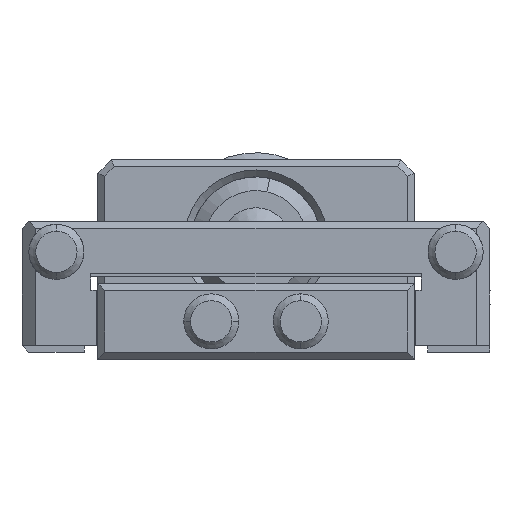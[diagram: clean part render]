
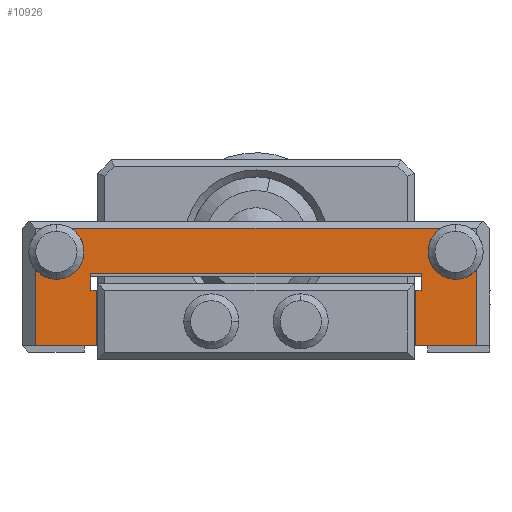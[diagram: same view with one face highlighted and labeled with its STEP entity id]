
A CAD part, left-side view. The second image highlights one B-rep face of the part: STEP entity #10926.
In plain terms, the highlighted planar face has unit normal (-1, 0, 0).
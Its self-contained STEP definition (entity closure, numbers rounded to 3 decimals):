
#42 = CARTESIAN_POINT ( 'NONE',  ( -17., -16., 0.5 ) ) ;
#599 = CARTESIAN_POINT ( 'NONE',  ( -17., 14.5, 7.3 ) ) ;
#815 = CARTESIAN_POINT ( 'NONE',  ( -17., -11.6, 0. ) ) ;
#1012 = DIRECTION ( 'NONE',  ( 0., 0., 1. ) ) ;
#1035 = VERTEX_POINT ( 'NONE', #8457 ) ;
#1680 = VERTEX_POINT ( 'NONE', #16057 ) ;
#2104 = ORIENTED_EDGE ( 'NONE', *, *, #27889, .F. ) ;
#2494 = CARTESIAN_POINT ( 'NONE',  ( -17., -12., 4.5 ) ) ;
#2497 = EDGE_CURVE ( 'NONE', #14757, #15237, #14027, .T. ) ;
#2907 = CARTESIAN_POINT ( 'NONE',  ( -17., 12., 0. ) ) ;
#3111 = DIRECTION ( 'NONE',  ( 0., 0., -1. ) ) ;
#3204 = CARTESIAN_POINT ( 'NONE',  ( -17., -11.6, 4.5 ) ) ;
#3237 = FACE_OUTER_BOUND ( 'NONE', #4606, .T. ) ;
#3279 = CARTESIAN_POINT ( 'NONE',  ( -17., 11.6, 0.5 ) ) ;
#3436 = CARTESIAN_POINT ( 'NONE',  ( -17., -14.5, 7.3 ) ) ;
#3438 = CARTESIAN_POINT ( 'NONE',  ( -17., -16., 0. ) ) ;
#3634 = VECTOR ( 'NONE', #24911, 1000. ) ;
#3717 = CARTESIAN_POINT ( 'NONE',  ( -17., -12., 0. ) ) ;
#4112 = DIRECTION ( 'NONE',  ( 0., 1., 0. ) ) ;
#4365 = CARTESIAN_POINT ( 'NONE',  ( -17., 0., 0.5 ) ) ;
#4383 = CARTESIAN_POINT ( 'NONE',  ( -17., 12., 4.5 ) ) ;
#4606 = EDGE_LOOP ( 'NONE', ( #8444, #6011, #20451, #9121, #5052, #17510, #8787, #5846, #23722, #15936, #27617, #23217, #2104, #19955, #22754, #27914 ) ) ;
#4676 = LINE ( 'NONE', #8618, #3634 ) ;
#5052 = ORIENTED_EDGE ( 'NONE', *, *, #23490, .F. ) ;
#5846 = ORIENTED_EDGE ( 'NONE', *, *, #8217, .F. ) ;
#6011 = ORIENTED_EDGE ( 'NONE', *, *, #19567, .F. ) ;
#6240 = AXIS2_PLACEMENT_3D ( 'NONE', #27857, #25796, #21269 ) ;
#6316 = DIRECTION ( 'NONE',  ( 0., 0., 1. ) ) ;
#6817 = AXIS2_PLACEMENT_3D ( 'NONE', #8266, #29140, #29231 ) ;
#7068 = VERTEX_POINT ( 'NONE', #25390 ) ;
#7403 = EDGE_CURVE ( 'NONE', #1680, #24170, #4676, .T. ) ;
#8217 = EDGE_CURVE ( 'NONE', #7068, #16362, #23030, .T. ) ;
#8266 = CARTESIAN_POINT ( 'NONE',  ( -17., 0., 0. ) ) ;
#8286 = EDGE_CURVE ( 'NONE', #18345, #29764, #19429, .T. ) ;
#8370 = AXIS2_PLACEMENT_3D ( 'NONE', #599, #16574, #14277 ) ;
#8388 = LINE ( 'NONE', #4365, #14876 ) ;
#8444 = ORIENTED_EDGE ( 'NONE', *, *, #7403, .T. ) ;
#8457 = CARTESIAN_POINT ( 'NONE',  ( -17., -12., 4.5 ) ) ;
#8570 = LINE ( 'NONE', #11098, #23345 ) ;
#8618 = CARTESIAN_POINT ( 'NONE',  ( -17., 0., 9. ) ) ;
#8777 = AXIS2_PLACEMENT_3D ( 'NONE', #22471, #9284, #15616 ) ;
#8787 = ORIENTED_EDGE ( 'NONE', *, *, #28723, .F. ) ;
#8823 = CARTESIAN_POINT ( 'NONE',  ( -17., 0., 5.7 ) ) ;
#8860 = CARTESIAN_POINT ( 'NONE',  ( -17., -14.5, 5.3 ) ) ;
#9121 = ORIENTED_EDGE ( 'NONE', *, *, #20228, .F. ) ;
#9284 = DIRECTION ( 'NONE',  ( -1., 0., 0. ) ) ;
#9333 = DIRECTION ( 'NONE',  ( 0., -1., 0. ) ) ;
#9388 = LINE ( 'NONE', #2494, #23081 ) ;
#9557 = VERTEX_POINT ( 'NONE', #21250 ) ;
#9855 = CARTESIAN_POINT ( 'NONE',  ( -17., -11.6, 0.5 ) ) ;
#10417 = EDGE_CURVE ( 'NONE', #11050, #9557, #19850, .T. ) ;
#10926 = ADVANCED_FACE ( 'NONE', ( #3237 ), #12999, .F. ) ;
#10944 = DIRECTION ( 'NONE',  ( 0., 1., 0. ) ) ;
#11033 = LINE ( 'NONE', #18598, #28710 ) ;
#11050 = VERTEX_POINT ( 'NONE', #8860 ) ;
#11098 = CARTESIAN_POINT ( 'NONE',  ( -17., 0., 0.5 ) ) ;
#11172 = CIRCLE ( 'NONE', #8777, 2. ) ;
#11346 = VECTOR ( 'NONE', #21780, 1000. ) ;
#11358 = CARTESIAN_POINT ( 'NONE',  ( -17., -12., 5.7 ) ) ;
#11476 = DIRECTION ( 'NONE',  ( 0., -1., 0. ) ) ;
#11884 = DIRECTION ( 'NONE',  ( 0., 0., 1. ) ) ;
#12999 = PLANE ( 'NONE',  #6817 ) ;
#13236 = VECTOR ( 'NONE', #6316, 1000. ) ;
#13312 = CARTESIAN_POINT ( 'NONE',  ( -17., 11.6, 4.5 ) ) ;
#13341 = LINE ( 'NONE', #8823, #27426 ) ;
#14027 = CIRCLE ( 'NONE', #8370, 2. ) ;
#14277 = DIRECTION ( 'NONE',  ( 0., 0., -1. ) ) ;
#14757 = VERTEX_POINT ( 'NONE', #24553 ) ;
#14848 = EDGE_CURVE ( 'NONE', #29764, #1035, #9388, .T. ) ;
#14876 = VECTOR ( 'NONE', #27488, 1000. ) ;
#15054 = VERTEX_POINT ( 'NONE', #3279 ) ;
#15075 = CARTESIAN_POINT ( 'NONE',  ( -17., 13.446, 9. ) ) ;
#15237 = VERTEX_POINT ( 'NONE', #29591 ) ;
#15616 = DIRECTION ( 'NONE',  ( 0., 0., -1. ) ) ;
#15936 = ORIENTED_EDGE ( 'NONE', *, *, #21530, .F. ) ;
#16057 = CARTESIAN_POINT ( 'NONE',  ( -17., -13.446, 9. ) ) ;
#16362 = VERTEX_POINT ( 'NONE', #4383 ) ;
#16574 = DIRECTION ( 'NONE',  ( -1., 0., 0. ) ) ;
#17381 = VECTOR ( 'NONE', #20624, 1000. ) ;
#17510 = ORIENTED_EDGE ( 'NONE', *, *, #23705, .F. ) ;
#18345 = VERTEX_POINT ( 'NONE', #9855 ) ;
#18598 = CARTESIAN_POINT ( 'NONE',  ( -17., 12., 4.5 ) ) ;
#19003 = VECTOR ( 'NONE', #11884, 1000. ) ;
#19018 = EDGE_CURVE ( 'NONE', #25806, #7068, #13341, .T. ) ;
#19022 = VERTEX_POINT ( 'NONE', #20285 ) ;
#19429 = LINE ( 'NONE', #815, #22308 ) ;
#19476 = VERTEX_POINT ( 'NONE', #13312 ) ;
#19567 = EDGE_CURVE ( 'NONE', #15237, #24170, #11172, .T. ) ;
#19570 = DIRECTION ( 'NONE',  ( 0., 0., -1. ) ) ;
#19600 = EDGE_CURVE ( 'NONE', #1680, #11050, #29907, .T. ) ;
#19850 = CIRCLE ( 'NONE', #21638, 2. ) ;
#19955 = ORIENTED_EDGE ( 'NONE', *, *, #24613, .F. ) ;
#20078 = LINE ( 'NONE', #3717, #13236 ) ;
#20228 = EDGE_CURVE ( 'NONE', #19022, #14757, #24417, .T. ) ;
#20285 = CARTESIAN_POINT ( 'NONE',  ( -17., 16., 0.5 ) ) ;
#20451 = ORIENTED_EDGE ( 'NONE', *, *, #2497, .F. ) ;
#20624 = DIRECTION ( 'NONE',  ( 0., 0., -1. ) ) ;
#21250 = CARTESIAN_POINT ( 'NONE',  ( -17., -16., 5.977 ) ) ;
#21269 = DIRECTION ( 'NONE',  ( 0., 0., -1. ) ) ;
#21530 = EDGE_CURVE ( 'NONE', #1035, #25806, #20078, .T. ) ;
#21638 = AXIS2_PLACEMENT_3D ( 'NONE', #3436, #28461, #19570 ) ;
#21780 = DIRECTION ( 'NONE',  ( 0., 0., -1. ) ) ;
#22308 = VECTOR ( 'NONE', #1012, 1000. ) ;
#22471 = CARTESIAN_POINT ( 'NONE',  ( -17., 14.5, 7.3 ) ) ;
#22754 = ORIENTED_EDGE ( 'NONE', *, *, #10417, .F. ) ;
#23030 = LINE ( 'NONE', #2907, #24104 ) ;
#23081 = VECTOR ( 'NONE', #11476, 1000. ) ;
#23217 = ORIENTED_EDGE ( 'NONE', *, *, #8286, .F. ) ;
#23345 = VECTOR ( 'NONE', #4112, 1000. ) ;
#23490 = EDGE_CURVE ( 'NONE', #15054, #19022, #8388, .T. ) ;
#23705 = EDGE_CURVE ( 'NONE', #19476, #15054, #28936, .T. ) ;
#23722 = ORIENTED_EDGE ( 'NONE', *, *, #19018, .F. ) ;
#24104 = VECTOR ( 'NONE', #3111, 1000. ) ;
#24170 = VERTEX_POINT ( 'NONE', #15075 ) ;
#24417 = LINE ( 'NONE', #28024, #19003 ) ;
#24553 = CARTESIAN_POINT ( 'NONE',  ( -17., 16., 5.977 ) ) ;
#24613 = EDGE_CURVE ( 'NONE', #9557, #29117, #29374, .T. ) ;
#24911 = DIRECTION ( 'NONE',  ( 0., 1., 0. ) ) ;
#25390 = CARTESIAN_POINT ( 'NONE',  ( -17., 12., 5.7 ) ) ;
#25796 = DIRECTION ( 'NONE',  ( -1., 0., 0. ) ) ;
#25806 = VERTEX_POINT ( 'NONE', #11358 ) ;
#27411 = CARTESIAN_POINT ( 'NONE',  ( -17., 11.6, 0. ) ) ;
#27426 = VECTOR ( 'NONE', #10944, 1000. ) ;
#27488 = DIRECTION ( 'NONE',  ( 0., 1., 0. ) ) ;
#27617 = ORIENTED_EDGE ( 'NONE', *, *, #14848, .F. ) ;
#27857 = CARTESIAN_POINT ( 'NONE',  ( -17., -14.5, 7.3 ) ) ;
#27889 = EDGE_CURVE ( 'NONE', #29117, #18345, #8570, .T. ) ;
#27914 = ORIENTED_EDGE ( 'NONE', *, *, #19600, .F. ) ;
#28024 = CARTESIAN_POINT ( 'NONE',  ( -17., 16., 0. ) ) ;
#28461 = DIRECTION ( 'NONE',  ( -1., 0., 0. ) ) ;
#28710 = VECTOR ( 'NONE', #9333, 1000. ) ;
#28723 = EDGE_CURVE ( 'NONE', #16362, #19476, #11033, .T. ) ;
#28936 = LINE ( 'NONE', #27411, #17381 ) ;
#29117 = VERTEX_POINT ( 'NONE', #42 ) ;
#29140 = DIRECTION ( 'NONE',  ( 1., 0., 0. ) ) ;
#29231 = DIRECTION ( 'NONE',  ( 0., 0., -1. ) ) ;
#29374 = LINE ( 'NONE', #3438, #11346 ) ;
#29591 = CARTESIAN_POINT ( 'NONE',  ( -17., 14.5, 5.3 ) ) ;
#29764 = VERTEX_POINT ( 'NONE', #3204 ) ;
#29907 = CIRCLE ( 'NONE', #6240, 2. ) ;
